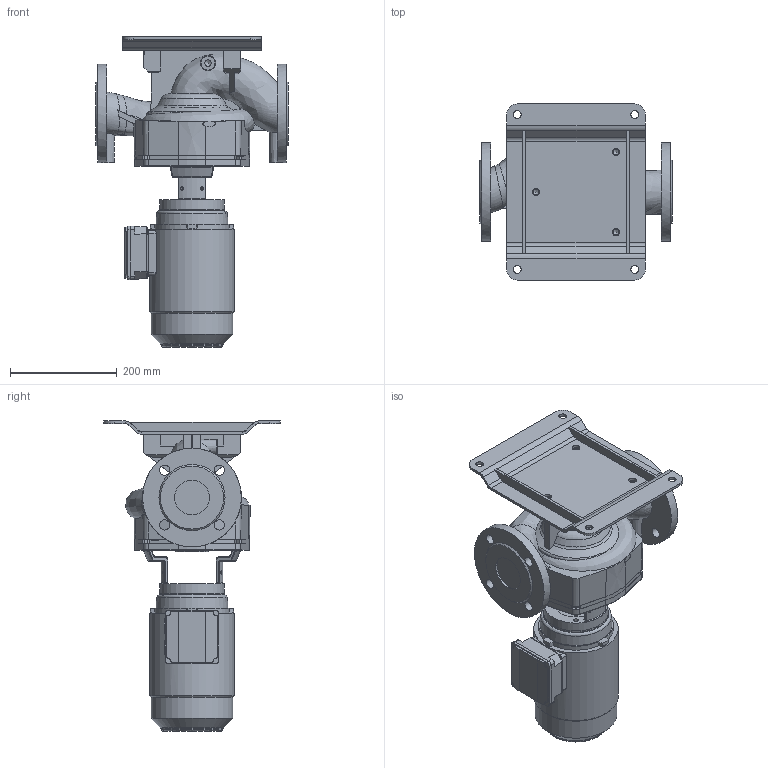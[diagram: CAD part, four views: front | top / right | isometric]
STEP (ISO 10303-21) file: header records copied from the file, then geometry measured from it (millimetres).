
FILE_DESCRIPTION (( 'STEP AP203' ), '1' );
FILE_NAME ('KI65-145_4_0,75kW.STEP', '2024-07-29T10:22:48', ( '' ), ( '' ), 'SwSTEP 2.0', 'SolidWorks 2023', '' );
FILE_SCHEMA (( 'CONFIG_CONTROL_DESIGN' ));
Length unit declared in the file: millimetre
Products named in the file (11): 230404; 230405; 230497; KI65-145_4_0,75kW; HMA3_80_2-4_solid; 220542; 230496; 230033; 230034; 220544; 230031
Assembly tree (11 placements, depth 3):
  KI65-145_4_0,75kW
    HMA3_80_2-4_solid
    230405
      230404
    230497
      230496
    220544
      220542
    230034
      230031
      230033  x2
Bounding box: 360 x 330.18 x 580.9 mm (x, y, z)
Volume: 13443578 mm3; surface area: 969425.4 mm2
Topology: 7 solids, 7 shells, 787 faces, 2034 edges, 1263 vertices
Faces by surface type: plane 280, cylinder 267, bspline 98, torus 67, cone 61, sphere 14
Full cylindrical faces by diameter (mm): 5 x12, 6 x3, 7 x8, 8 x4, 10.2 x7, 11.8 x4, 14 x4, 14.5 x7, 19 x8, 65 x2, 80 x1, 116 x1, 120 x2, 147 x1, 151 x1, 153.6 x1, 158.6 x1, 189 x1
Entity records: 40095 total; most frequent: CARTESIAN_POINT 21240, ORIENTED_EDGE 3706, DIRECTION 3539, EDGE_CURVE 1853, AXIS2_PLACEMENT_3D 1374, VERTEX_POINT 1207, EDGE_LOOP 976, FACE_OUTER_BOUND 850
